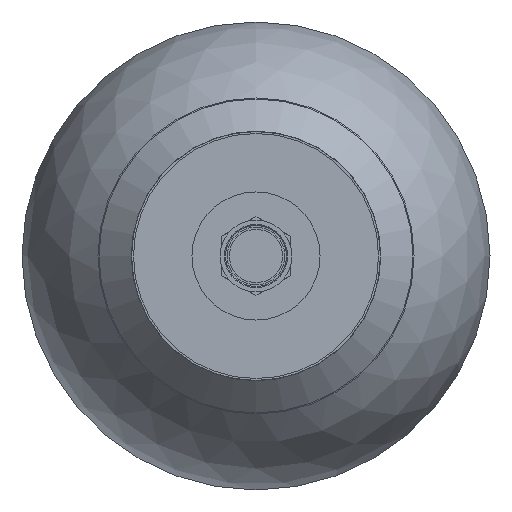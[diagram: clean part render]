
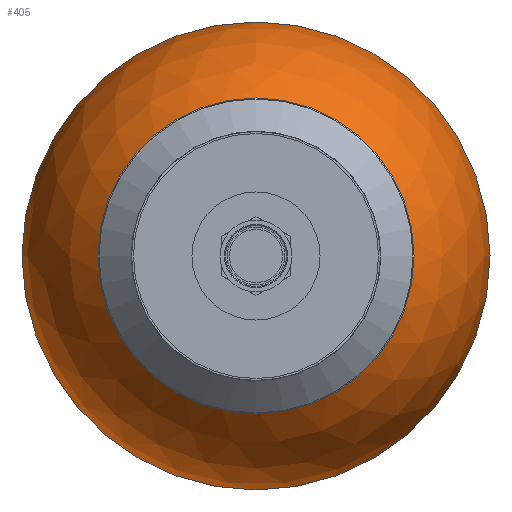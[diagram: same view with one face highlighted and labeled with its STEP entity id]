
A CAD part, front view. The second image highlights one B-rep face of the part: STEP entity #405.
In plain terms, the highlighted spherical face has radius 109.55 mm.
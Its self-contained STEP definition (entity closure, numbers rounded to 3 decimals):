
#247=CARTESIAN_POINT('',(-140.659,-155.6,0.));
#248=VERTEX_POINT('',#247);
#249=CARTESIAN_POINT('',(-140.659,-46.05,0.0));
#250=DIRECTION('',(1.0,0.0,0.0));
#251=DIRECTION('',(0.0,1.0,0.0));
#252=AXIS2_PLACEMENT_3D('',#249,#250,#251);
#253=CIRCLE('',#252,109.55);
#254=EDGE_CURVE('',#248,#248,#253,.T.);
#379=CARTESIAN_POINT('',(-246.021,-16.05,0.0));
#380=VERTEX_POINT('',#379);
#381=CARTESIAN_POINT('',(-246.021,-46.05,0.0));
#382=DIRECTION('',(1.0,0.0,0.0));
#383=DIRECTION('',(0.0,1.0,0.0));
#384=AXIS2_PLACEMENT_3D('',#381,#382,#383);
#385=CIRCLE('',#384,30.0);
#386=EDGE_CURVE('',#380,#380,#385,.T.);
#394=CARTESIAN_POINT('',(-140.659,-46.05,0.0));
#395=DIRECTION('',(1.0,0.0,0.0));
#396=DIRECTION('',(0.0,-1.0,0.0));
#397=AXIS2_PLACEMENT_3D('',#394,#395,#396);
#398=SPHERICAL_SURFACE('',#397,109.55);
#399=ORIENTED_EDGE('',*,*,#254,.F.);
#400=EDGE_LOOP('',(#399));
#401=FACE_OUTER_BOUND('',#400,.T.);
#402=ORIENTED_EDGE('',*,*,#386,.T.);
#403=EDGE_LOOP('',(#402));
#404=FACE_BOUND('',#403,.T.);
#405=ADVANCED_FACE('',(#401,#404),#398,.T.);
